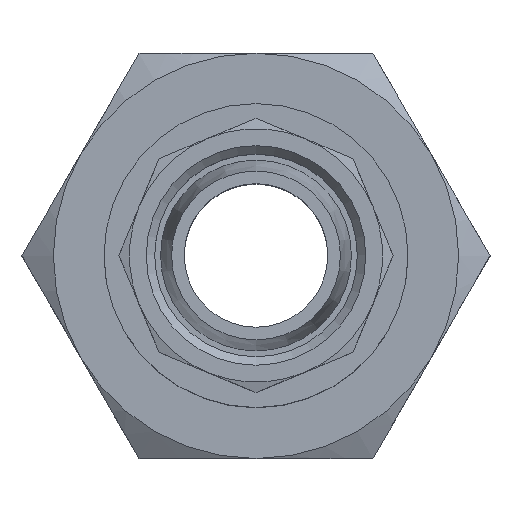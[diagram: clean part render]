
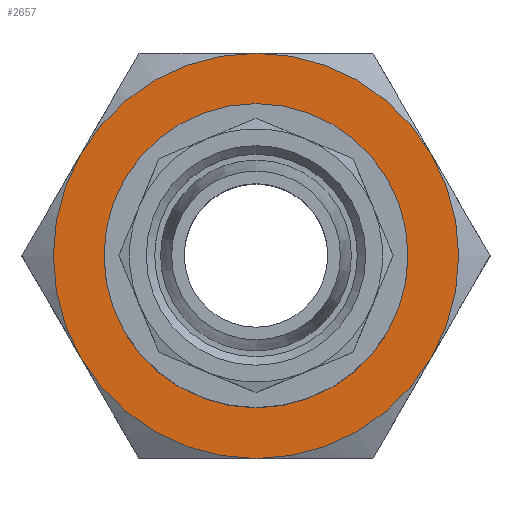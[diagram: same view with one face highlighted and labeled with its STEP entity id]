
A CAD part, top view. The second image highlights one B-rep face of the part: STEP entity #2657.
In plain terms, the highlighted planar face has unit normal (0, 0, 1) as drawn and (0, 1, 0) by its records, which use the part's own axes.
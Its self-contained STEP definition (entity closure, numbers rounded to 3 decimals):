
#1318=PLANE('',#2541);
#1529=ORIENTED_EDGE('',*,*,#1810,.F.);
#1530=ORIENTED_EDGE('',*,*,#1811,.F.);
#1531=ORIENTED_EDGE('',*,*,#1812,.F.);
#1532=ORIENTED_EDGE('',*,*,#1809,.F.);
#1533=ORIENTED_EDGE('',*,*,#1813,.F.);
#1534=ORIENTED_EDGE('',*,*,#1814,.F.);
#1535=ORIENTED_EDGE('',*,*,#1754,.F.);
#1586=CIRCLE('',#2460,7.25);
#1615=CIRCLE('',#2540,12.);
#1616=CIRCLE('',#2542,12.);
#1617=CIRCLE('',#2543,12.);
#1618=CIRCLE('',#2544,12.);
#1619=CIRCLE('',#2545,12.);
#1620=CIRCLE('',#2546,12.);
#1656=VERTEX_POINT('',#2790);
#1687=VERTEX_POINT('',#2876);
#1692=VERTEX_POINT('',#2888);
#1695=VERTEX_POINT('',#2898);
#1698=VERTEX_POINT('',#2908);
#1699=VERTEX_POINT('',#2914);
#1702=VERTEX_POINT('',#2927);
#1754=EDGE_CURVE('',#1656,#1656,#1586,.T.);
#1809=EDGE_CURVE('',#1699,#1698,#1615,.T.);
#1810=EDGE_CURVE('',#1692,#1687,#1616,.T.);
#1811=EDGE_CURVE('',#1695,#1692,#1617,.T.);
#1812=EDGE_CURVE('',#1698,#1695,#1618,.T.);
#1813=EDGE_CURVE('',#1702,#1699,#1619,.T.);
#1814=EDGE_CURVE('',#1687,#1702,#1620,.T.);
#1911=EDGE_LOOP('',(#1529,#1530,#1531,#1532,#1533,#1534));
#1912=EDGE_LOOP('',(#1535));
#2017=FACE_BOUND('',#1911,.T.);
#2018=FACE_BOUND('',#1912,.T.);
#2177=DIRECTION('',(0.,1.,0.));
#2178=DIRECTION('',(0.,0.,-7.25));
#2343=DIRECTION('',(0.,-1.,0.));
#2344=DIRECTION('',(-10.392,0.,-6.));
#2345=DIRECTION('',(0.,1.,0.));
#2346=DIRECTION('',(1.,0.,0.));
#2347=DIRECTION('',(0.,-1.,0.));
#2348=DIRECTION('',(10.392,0.,6.));
#2349=DIRECTION('',(0.,-1.,0.));
#2350=DIRECTION('',(10.392,0.,-6.));
#2351=DIRECTION('',(0.,-1.,0.));
#2352=DIRECTION('',(0.,0.,-12.));
#2353=DIRECTION('',(0.,-1.,0.));
#2354=DIRECTION('',(-10.392,0.,6.));
#2355=DIRECTION('',(0.,-1.,0.));
#2356=DIRECTION('',(0.,0.,12.));
#2460=AXIS2_PLACEMENT_3D('',#2791,#2177,#2178);
#2540=AXIS2_PLACEMENT_3D('',#2922,#2343,#2344);
#2541=AXIS2_PLACEMENT_3D('',#2923,#2345,#2346);
#2542=AXIS2_PLACEMENT_3D('',#2924,#2347,#2348);
#2543=AXIS2_PLACEMENT_3D('',#2925,#2349,#2350);
#2544=AXIS2_PLACEMENT_3D('',#2926,#2351,#2352);
#2545=AXIS2_PLACEMENT_3D('',#2928,#2353,#2354);
#2546=AXIS2_PLACEMENT_3D('',#2929,#2355,#2356);
#2657=ADVANCED_FACE('',(#2017,#2018),#1318,.T.);
#2790=CARTESIAN_POINT('',(24.774,29.67,-7.25));
#2791=CARTESIAN_POINT('',(24.774,29.67,0.));
#2876=CARTESIAN_POINT('',(24.774,29.67,12.));
#2888=CARTESIAN_POINT('',(35.166,29.67,6.));
#2898=CARTESIAN_POINT('',(35.166,29.67,-6.));
#2908=CARTESIAN_POINT('',(24.774,29.67,-12.));
#2914=CARTESIAN_POINT('',(14.382,29.67,-6.));
#2922=CARTESIAN_POINT('',(24.774,29.67,0.));
#2923=CARTESIAN_POINT('',(36.774,29.67,0.));
#2924=CARTESIAN_POINT('',(24.774,29.67,0.));
#2925=CARTESIAN_POINT('',(24.774,29.67,0.));
#2926=CARTESIAN_POINT('',(24.774,29.67,0.));
#2927=CARTESIAN_POINT('',(14.382,29.67,6.));
#2928=CARTESIAN_POINT('',(24.774,29.67,0.));
#2929=CARTESIAN_POINT('',(24.774,29.67,0.));
